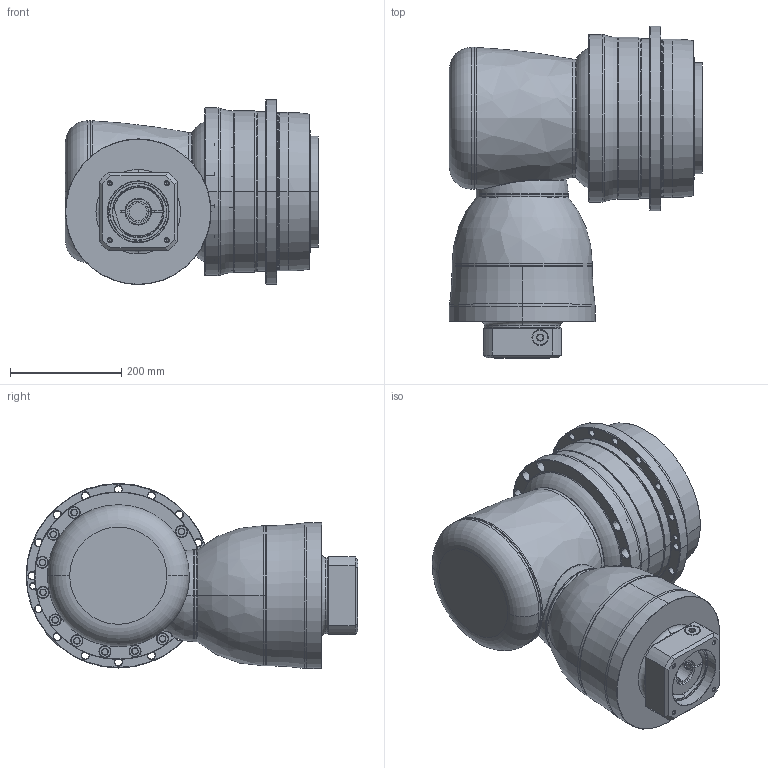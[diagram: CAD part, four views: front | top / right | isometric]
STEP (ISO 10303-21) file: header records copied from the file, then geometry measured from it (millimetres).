
FILE_DESCRIPTION((''),'2;1');
FILE_NAME('AHKB285_3ST_38-P0409900101_ASM','2016-12-02T',('d01943'),(''),'PRO/ENGINEER BY PARAMETRIC TECHNOLOGY CORPORATION, 2008410','PRO/ENGINEER BY PARAMETRIC TECHNOLOGY CORPORATION, 2008410','');
FILE_SCHEMA(('CONFIG_CONTROL_DESIGN'));
Length unit declared in the file: millimetre
Products named in the file (12): P1008700002; P1802800001; P0278800003; P0359800003; P1315700001; P1007700001; P1317700201; P0409900101; P0503900012; P0912602001; 21711422019; AHKB285_3ST_38-P0409900101_ASM
Assembly tree (11 placements, depth 2):
  AHKB285_3ST_38-P0409900101_ASM
    P1008700002
    P1802800001
    P0278800003
    P0359800003
    P1315700001
    P1007700001
    P1317700201
    P0409900101
    P0503900012
    P0912602001
    21711422019
Bounding box: 455.5 x 597 x 333 mm (x, y, z)
Volume: 26477261.7 mm3; surface area: 1834804.3 mm2
Topology: 12 solids, 12 shells, 1024 faces, 2324 edges, 1341 vertices
Faces by surface type: cylinder 369, cone 360, plane 139, torus 124, bspline 30, sphere 2
Entity records: 35989 total; most frequent: CARTESIAN_POINT 12438, DIRECTION 5422, ORIENTED_EDGE 4484, AXIS2_PLACEMENT_3D 2302, EDGE_CURVE 2242, VERTEX_POINT 1341, CIRCLE 1285, EDGE_LOOP 1219
